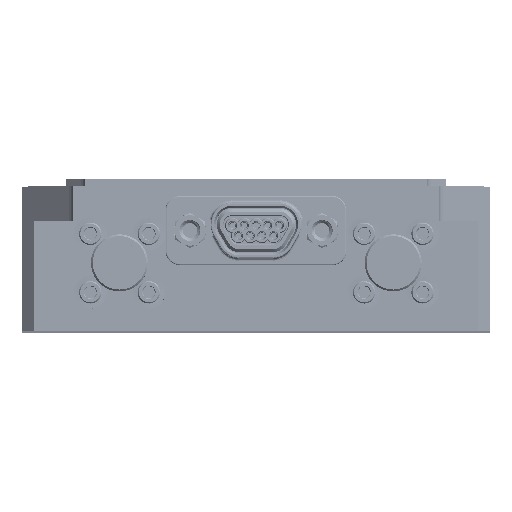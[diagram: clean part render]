
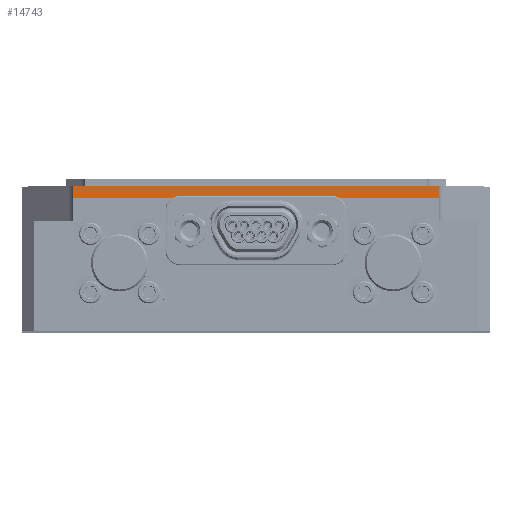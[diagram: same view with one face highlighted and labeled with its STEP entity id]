
A CAD part, top view. The second image highlights one B-rep face of the part: STEP entity #14743.
In plain terms, the highlighted planar face has unit normal (0, 0, 1).
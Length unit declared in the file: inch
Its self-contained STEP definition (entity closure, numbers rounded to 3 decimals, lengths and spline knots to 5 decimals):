
#355 = ORIENTED_EDGE ( 'NONE', *, *, #2613, .T. ) ;
#1554 = DIRECTION ( 'NONE',  ( 0., 1., 0. ) ) ;
#2002 = EDGE_CURVE ( 'NONE', #69283, #42138, #79239, .T. ) ;
#2613 = EDGE_CURVE ( 'NONE', #8911, #78258, #24937, .T. ) ;
#3983 = ORIENTED_EDGE ( 'NONE', *, *, #60369, .T. ) ;
#4337 = VECTOR ( 'NONE', #1554, 39.37008 ) ;
#6466 = VECTOR ( 'NONE', #86321, 39.37008 ) ;
#8911 = VERTEX_POINT ( 'NONE', #48381 ) ;
#14743 = ADVANCED_FACE ( 'NONE', ( #29553 ), #81664, .F. ) ;
#24937 = LINE ( 'NONE', #85075, #31773 ) ;
#25071 = LINE ( 'NONE', #60599, #6466 ) ;
#29553 = FACE_OUTER_BOUND ( 'NONE', #42829, .T. ) ;
#31773 = VECTOR ( 'NONE', #32404, 39.37008 ) ;
#32404 = DIRECTION ( 'NONE',  ( 0., 1., 0. ) ) ;
#41330 = CARTESIAN_POINT ( 'NONE',  ( -0.6, 0.05, 1.5 ) ) ;
#42138 = VERTEX_POINT ( 'NONE', #94264 ) ;
#42829 = EDGE_LOOP ( 'NONE', ( #77965, #81018, #3983, #355 ) ) ;
#48381 = CARTESIAN_POINT ( 'NONE',  ( 0.78, 0., 1.5 ) ) ;
#52333 = DIRECTION ( 'NONE',  ( 0., 0., -1. ) ) ;
#60369 = EDGE_CURVE ( 'NONE', #69283, #8911, #25071, .T. ) ;
#60599 = CARTESIAN_POINT ( 'NONE',  ( -0.6, 0., 1.5 ) ) ;
#63055 = CARTESIAN_POINT ( 'NONE',  ( -0.78, 0., 1.5 ) ) ;
#69283 = VERTEX_POINT ( 'NONE', #63055 ) ;
#71238 = CARTESIAN_POINT ( 'NONE',  ( -0.78, -0.25456, 1.5 ) ) ;
#74570 = DIRECTION ( 'NONE',  ( 1., 0., 0. ) ) ;
#77965 = ORIENTED_EDGE ( 'NONE', *, *, #80215, .F. ) ;
#78258 = VERTEX_POINT ( 'NONE', #109314 ) ;
#79239 = LINE ( 'NONE', #71238, #4337 ) ;
#79701 = LINE ( 'NONE', #41330, #84628 ) ;
#80215 = EDGE_CURVE ( 'NONE', #42138, #78258, #79701, .T. ) ;
#81018 = ORIENTED_EDGE ( 'NONE', *, *, #2002, .F. ) ;
#81664 = PLANE ( 'NONE',  #92588 ) ;
#84628 = VECTOR ( 'NONE', #74570, 39.37008 ) ;
#85075 = CARTESIAN_POINT ( 'NONE',  ( 0.78, -0.25456, 1.5 ) ) ;
#86321 = DIRECTION ( 'NONE',  ( 1., 0., 0. ) ) ;
#92588 = AXIS2_PLACEMENT_3D ( 'NONE', #104904, #52333, #98012 ) ;
#94264 = CARTESIAN_POINT ( 'NONE',  ( -0.78, 0.05, 1.5 ) ) ;
#98012 = DIRECTION ( 'NONE',  ( -1., 0., 0. ) ) ;
#104904 = CARTESIAN_POINT ( 'NONE',  ( -0.6, 0.08, 1.5 ) ) ;
#109314 = CARTESIAN_POINT ( 'NONE',  ( 0.78, 0.05, 1.5 ) ) ;
